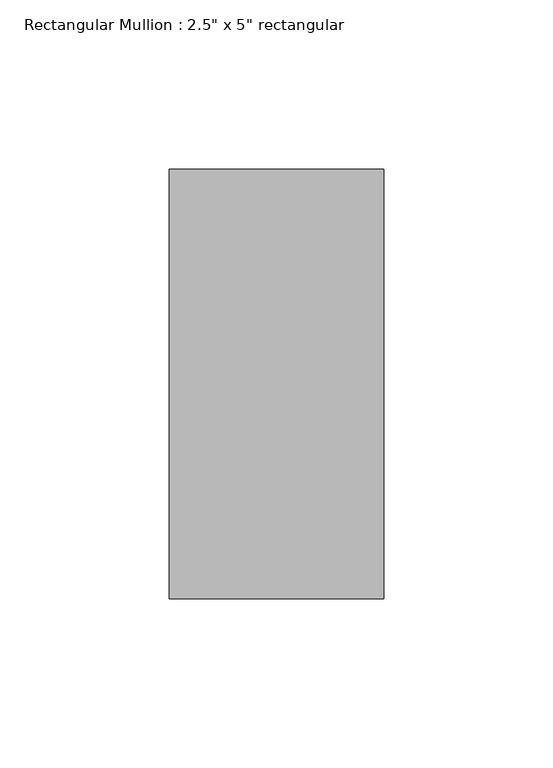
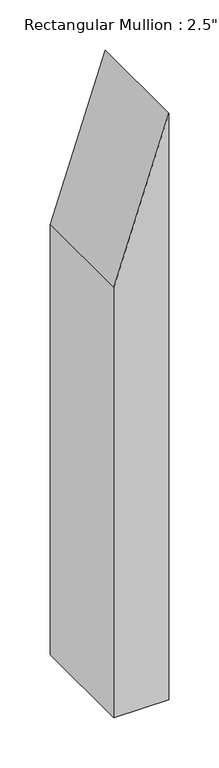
"""IFC4 building model written with IfcOpenShell, lengths in millimetres: member geometry."""

from ifc_helpers import new_model, si_unit, frame, origin, place, context, project, spatial, polyline, outline, extrude, source, transform, mapped, element, save


def member_4efea63f(model_context):
    return source(origin(), model_context, "Body", "SweptSolid", [
        extrude(outline(polyline([(-105.5546314, 31.75), (-296.0546314, -31.75), (-820.4877692, -31.75), (-820.4877692, 31.75), (-105.5546314, 31.75)])), frame((0.0, -63.5, 0.0), z_axis=(0.0, 1.0, 0.0), x_axis=(0.0, 0.0, 1.0)), (0.0, 0.0, 1.0), 127.0),
    ])


if __name__ == "__main__":
    model = new_model("IFC4")
    model_context = context("Model", 3, world=origin())
    ifc_project = project(units=[si_unit("LENGTHUNIT", "METRE", prefix="MILLI")], contexts=[model_context])
    site = spatial("IfcSite", under=ifc_project)
    building = spatial("IfcBuilding", under=site)
    placement = place(None, origin())
    member_shape = member_4efea63f(model_context)
    element("IfcMember", 1, ObjectType="Rectangular Mullion : 2.5\" x 5\" rectangular", at=placement, inside=building, context=model_context, shape_type="MappedRepresentation", body=[
        mapped(member_shape, transform((0.0, 0.0, 0.0), x_axis=(1.0, 0.0, 0.0), y_axis=(0.0, 1.0, 0.0), z_axis=(0.0, 0.0, 1.0))),
    ])
    save(model, "model.ifc")
